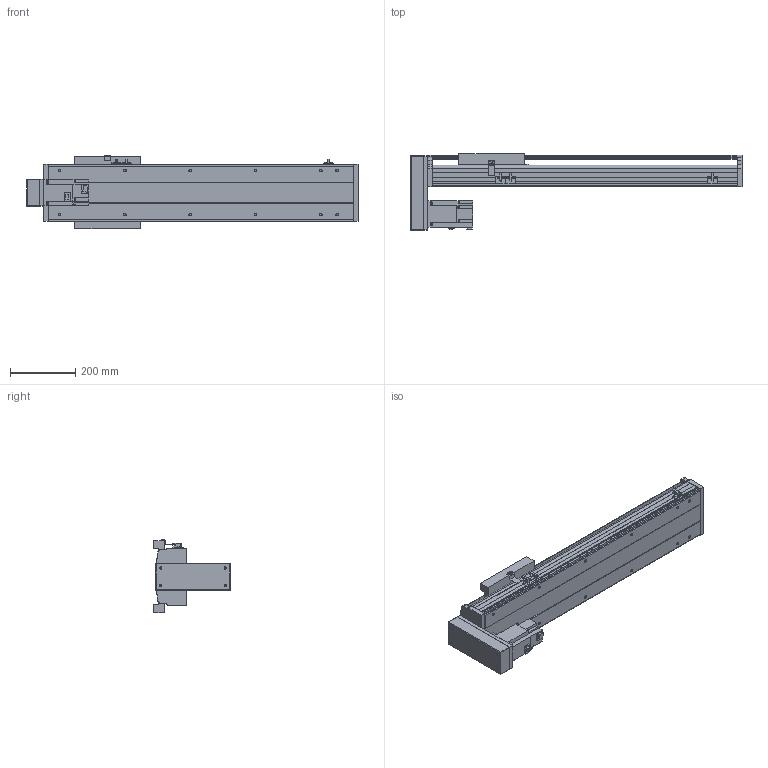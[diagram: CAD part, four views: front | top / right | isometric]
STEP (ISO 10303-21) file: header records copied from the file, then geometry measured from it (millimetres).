
FILE_DESCRIPTION(/* description */ ('STEP AP214'),/* implementation_level */ '2;1');
FILE_NAME(/* name */ 'PSS200-L10-S600-BM-T75-C1-N(0)',/* time_stamp */ '2022-06-06T04:44:45+02:00',/* author */ ('License CC BY-ND 4.0'),/* organization */ ('CADENAS'),/* preprocessor_version */ 'ST-DEVELOPER v18.102',/* originating_system */ 'PARTsolutions',/* authorisation */ ' ');
FILE_SCHEMA (('AUTOMOTIVE_DESIGN {1 0 10303 214 3 1 1}'));
Length unit declared in the file: millimetre
Products named in the file (8): PSS200-L10-S600-BM-T75-C1-N(0); PSS200-S600-BM-N_S; T75-p1; PSS200BM-N_h; PSS200-N_sensor; PSS200-BM-C1-N_sl; PSS200-N_Q; PSS200-S600-BM-C1-N_body
Assembly tree (9 placements, depth 2):
  PSS200-L10-S600-BM-T75-C1-N(0)
    PSS200-S600-BM-N_S
    T75-p1
    PSS200BM-N_h
    PSS200-N_sensor  x3
    PSS200-BM-C1-N_sl
    PSS200-N_Q
    PSS200-S600-BM-C1-N_body
Bounding box: 1016.85 x 234.45 x 223.86 mm (x, y, z)
Volume: 7470029.5 mm3; surface area: 1673445.1 mm2
Topology: 9 solids, 9 shells, 598 faces, 1601 edges, 1062 vertices
Faces by surface type: plane 452, cylinder 122, cone 20, sphere 4
Full cylindrical faces by diameter (mm): 4 x2, 4.5 x4, 6 x7, 6.647 x16, 7.4 x4, 8 x8, 10 x6, 25 x1, 40 x1, 67 x1
Entity records: 16636 total; most frequent: CARTESIAN_POINT 2885, DIRECTION 2747, ORIENTED_EDGE 2722, EDGE_CURVE 1361, LINE 1071, VECTOR 1071, VERTEX_POINT 944, AXIS2_PLACEMENT_3D 838
